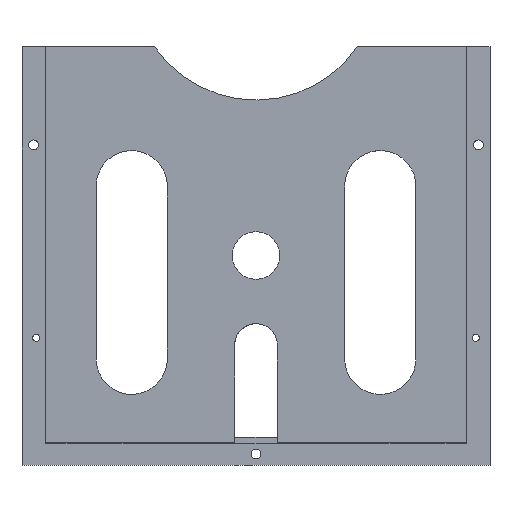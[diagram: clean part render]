
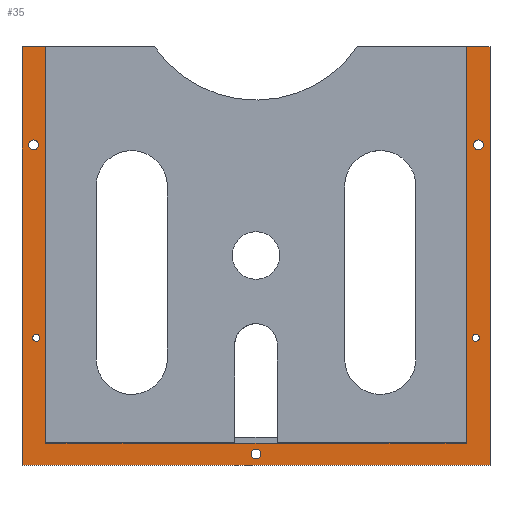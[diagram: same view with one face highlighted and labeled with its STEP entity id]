
A CAD part, top view. The second image highlights one B-rep face of the part: STEP entity #35.
In plain terms, the highlighted planar face has unit normal (0, 0, 1).
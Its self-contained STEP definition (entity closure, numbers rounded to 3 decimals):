
#14=FACE_BOUND('',#112,.T.);
#15=FACE_BOUND('',#113,.T.);
#16=FACE_BOUND('',#114,.T.);
#17=FACE_BOUND('',#115,.T.);
#18=FACE_BOUND('',#116,.T.);
#35=ADVANCED_FACE('',(#73,#14,#15,#16,#17,#18),#728,.T.);
#73=FACE_OUTER_BOUND('',#111,.T.);
#111=EDGE_LOOP('',(#180,#181,#182,#183,#184,#185,#186,#187,#188,#189,#190,
#191,#192,#193));
#112=EDGE_LOOP('',(#194));
#113=EDGE_LOOP('',(#195));
#114=EDGE_LOOP('',(#196));
#115=EDGE_LOOP('',(#197));
#116=EDGE_LOOP('',(#198));
#180=ORIENTED_EDGE('',*,*,#405,.F.);
#181=ORIENTED_EDGE('',*,*,#406,.F.);
#182=ORIENTED_EDGE('',*,*,#409,.F.);
#183=ORIENTED_EDGE('',*,*,#403,.T.);
#184=ORIENTED_EDGE('',*,*,#402,.T.);
#185=ORIENTED_EDGE('',*,*,#492,.F.);
#186=ORIENTED_EDGE('',*,*,#491,.T.);
#187=ORIENTED_EDGE('',*,*,#463,.F.);
#188=ORIENTED_EDGE('',*,*,#462,.T.);
#189=ORIENTED_EDGE('',*,*,#509,.T.);
#190=ORIENTED_EDGE('',*,*,#508,.T.);
#191=ORIENTED_EDGE('',*,*,#401,.T.);
#192=ORIENTED_EDGE('',*,*,#407,.F.);
#193=ORIENTED_EDGE('',*,*,#412,.F.);
#194=ORIENTED_EDGE('',*,*,#467,.T.);
#195=ORIENTED_EDGE('',*,*,#470,.T.);
#196=ORIENTED_EDGE('',*,*,#473,.T.);
#197=ORIENTED_EDGE('',*,*,#476,.T.);
#198=ORIENTED_EDGE('',*,*,#479,.T.);
#401=EDGE_CURVE('',#640,#646,#547,.T.);
#402=EDGE_CURVE('',#641,#693,#548,.T.);
#403=EDGE_CURVE('',#647,#641,#549,.T.);
#405=EDGE_CURVE('',#642,#643,#551,.T.);
#406=EDGE_CURVE('',#644,#642,#552,.T.);
#407=EDGE_CURVE('',#645,#646,#553,.T.);
#409=EDGE_CURVE('',#647,#644,#555,.T.);
#412=EDGE_CURVE('',#643,#645,#558,.T.);
#462=EDGE_CURVE('',#674,#702,#595,.T.);
#463=EDGE_CURVE('',#674,#675,#596,.T.);
#467=EDGE_CURVE('',#682,#682,#532,.T.);
#470=EDGE_CURVE('',#684,#684,#534,.T.);
#473=EDGE_CURVE('',#686,#686,#536,.T.);
#476=EDGE_CURVE('',#688,#688,#538,.T.);
#479=EDGE_CURVE('',#690,#690,#540,.T.);
#491=EDGE_CURVE('',#692,#675,#613,.T.);
#492=EDGE_CURVE('',#692,#693,#614,.T.);
#508=EDGE_CURVE('',#703,#640,#630,.T.);
#509=EDGE_CURVE('',#702,#703,#631,.T.);
#532=CIRCLE('',#879,2.75);
#534=CIRCLE('',#881,2.);
#536=CIRCLE('',#883,2.75);
#538=CIRCLE('',#885,2.);
#540=CIRCLE('',#887,2.75);
#547=B_SPLINE_CURVE_WITH_KNOTS('',1,(#1185,#1186),.UNSPECIFIED.,.F.,.F.,
(2,2),(-918.4,-695.8),.UNSPECIFIED.);
#548=B_SPLINE_CURVE_WITH_KNOTS('',1,(#1187,#1188),.UNSPECIFIED.,.F.,.F.,
(2,2),(-236.6,-219.9),.UNSPECIFIED.);
#549=B_SPLINE_CURVE_WITH_KNOTS('',1,(#1189,#1190),.UNSPECIFIED.,.F.,.F.,
(2,2),(-459.2,-236.6),.UNSPECIFIED.);
#551=B_SPLINE_CURVE_WITH_KNOTS('',3,(#1193,#1194,#1195,#1196),
 .UNSPECIFIED.,.F.,.F.,(4,4),(-263.,0.),.UNSPECIFIED.);
#552=B_SPLINE_CURVE_WITH_KNOTS('',3,(#1197,#1198,#1199,#1200),
 .UNSPECIFIED.,.F.,.F.,(4,4),(-235.,0.),.UNSPECIFIED.);
#553=B_SPLINE_CURVE_WITH_KNOTS('',3,(#1201,#1202,#1203,#1204),
 .UNSPECIFIED.,.F.,.F.,(4,4),(-263.,-249.8),.UNSPECIFIED.);
#555=B_SPLINE_CURVE_WITH_KNOTS('',3,(#1209,#1210,#1211,#1212),
 .UNSPECIFIED.,.F.,.F.,(4,4),(-13.2,0.),.UNSPECIFIED.);
#558=B_SPLINE_CURVE_WITH_KNOTS('',3,(#1219,#1220,#1221,#1222),
 .UNSPECIFIED.,.F.,.F.,(4,4),(-235.,0.),.UNSPECIFIED.);
#595=B_SPLINE_CURVE_WITH_KNOTS('',1,(#1496,#1497),.UNSPECIFIED.,.F.,.F.,
(2,2),(-106.3,-41.3),.UNSPECIFIED.);
#596=B_SPLINE_CURVE_WITH_KNOTS('',1,(#1498,#1499),.UNSPECIFIED.,.F.,.F.,
(2,2),(106.3,130.3),.UNSPECIFIED.);
#613=B_SPLINE_CURVE_WITH_KNOTS('',1,(#1563,#1564),.UNSPECIFIED.,.F.,.F.,
(2,2),(-195.3,-130.3),.UNSPECIFIED.);
#614=B_SPLINE_CURVE_WITH_KNOTS('',1,(#1565,#1566),.UNSPECIFIED.,.F.,.F.,
(2,2),(195.3,219.9),.UNSPECIFIED.);
#630=B_SPLINE_CURVE_WITH_KNOTS('',1,(#1613,#1614),.UNSPECIFIED.,.F.,.F.,
(2,2),(-16.7,0.),.UNSPECIFIED.);
#631=B_SPLINE_CURVE_WITH_KNOTS('',1,(#1615,#1616),.UNSPECIFIED.,.F.,.F.,
(2,2),(-41.3,-16.7),.UNSPECIFIED.);
#640=VERTEX_POINT('',#1103);
#641=VERTEX_POINT('',#1104);
#642=VERTEX_POINT('',#1105);
#643=VERTEX_POINT('',#1106);
#644=VERTEX_POINT('',#1107);
#645=VERTEX_POINT('',#1108);
#646=VERTEX_POINT('',#1109);
#647=VERTEX_POINT('',#1110);
#674=VERTEX_POINT('',#1137);
#675=VERTEX_POINT('',#1138);
#682=VERTEX_POINT('',#1145);
#684=VERTEX_POINT('',#1147);
#686=VERTEX_POINT('',#1149);
#688=VERTEX_POINT('',#1151);
#690=VERTEX_POINT('',#1153);
#692=VERTEX_POINT('',#1155);
#693=VERTEX_POINT('',#1156);
#702=VERTEX_POINT('',#1165);
#703=VERTEX_POINT('',#1166);
#728=PLANE('',#843);
#843=AXIS2_PLACEMENT_3D('',#967,#897,$);
#879=AXIS2_PLACEMENT_3D($,#1509,#939,#940);
#881=AXIS2_PLACEMENT_3D($,#1513,#943,#944);
#883=AXIS2_PLACEMENT_3D($,#1517,#947,#948);
#885=AXIS2_PLACEMENT_3D($,#1521,#951,#952);
#887=AXIS2_PLACEMENT_3D($,#1525,#955,#956);
#897=DIRECTION('',(0.,0.,1.));
#939=DIRECTION('',(0.,0.,-1.));
#940=DIRECTION('',(1.,0.,0.));
#943=DIRECTION('',(0.,0.,-1.));
#944=DIRECTION('',(1.,0.,0.));
#947=DIRECTION('',(0.,0.,-1.));
#948=DIRECTION('',(1.,0.,0.));
#951=DIRECTION('',(0.,0.,-1.));
#952=DIRECTION('',(-1.,0.,0.));
#955=DIRECTION('',(0.,0.,-1.));
#956=DIRECTION('',(1.,0.,0.));
#967=CARTESIAN_POINT('',(-691.,-10.,2.6));
#1103=CARTESIAN_POINT('',(-667.8,12.4,2.6));
#1104=CARTESIAN_POINT('',(-431.2,12.4,2.6));
#1105=CARTESIAN_POINT('',(-418.,0.,2.6));
#1106=CARTESIAN_POINT('',(-681.,0.,2.6));
#1107=CARTESIAN_POINT('',(-418.,235.,2.6));
#1108=CARTESIAN_POINT('',(-681.,235.,2.6));
#1109=CARTESIAN_POINT('',(-667.8,235.,2.6));
#1110=CARTESIAN_POINT('',(-431.2,235.,2.6));
#1137=CARTESIAN_POINT('',(-561.5,12.4,2.6));
#1138=CARTESIAN_POINT('',(-537.5,12.4,2.6));
#1145=CARTESIAN_POINT('',(-421.75,180.,2.6));
#1147=CARTESIAN_POINT('',(-424.,71.55,2.6));
#1149=CARTESIAN_POINT('',(-546.75,6.2,2.6));
#1151=CARTESIAN_POINT('',(-675.,71.55,2.6));
#1153=CARTESIAN_POINT('',(-671.75,180.,2.6));
#1155=CARTESIAN_POINT('',(-472.5,12.4,2.6));
#1156=CARTESIAN_POINT('',(-447.9,12.4,2.6));
#1165=CARTESIAN_POINT('',(-626.5,12.4,2.6));
#1166=CARTESIAN_POINT('',(-651.1,12.4,2.6));
#1185=CARTESIAN_POINT('',(-667.8,12.4,2.6));
#1186=CARTESIAN_POINT('',(-667.8,235.,2.6));
#1187=CARTESIAN_POINT('',(-431.2,12.4,2.6));
#1188=CARTESIAN_POINT('',(-447.9,12.4,2.6));
#1189=CARTESIAN_POINT('',(-431.2,235.,2.6));
#1190=CARTESIAN_POINT('',(-431.2,12.4,2.6));
#1193=CARTESIAN_POINT('',(-418.,0.,2.6));
#1194=CARTESIAN_POINT('',(-505.667,0.,2.6));
#1195=CARTESIAN_POINT('',(-593.333,0.,2.6));
#1196=CARTESIAN_POINT('',(-681.,0.,2.6));
#1197=CARTESIAN_POINT('',(-418.,235.,2.6));
#1198=CARTESIAN_POINT('',(-418.,156.667,2.6));
#1199=CARTESIAN_POINT('',(-418.,78.333,2.6));
#1200=CARTESIAN_POINT('',(-418.,0.,2.6));
#1201=CARTESIAN_POINT('',(-681.,235.,2.6));
#1202=CARTESIAN_POINT('',(-676.6,235.,2.6));
#1203=CARTESIAN_POINT('',(-672.2,235.,2.6));
#1204=CARTESIAN_POINT('',(-667.8,235.,2.6));
#1209=CARTESIAN_POINT('',(-431.2,235.,2.6));
#1210=CARTESIAN_POINT('',(-426.8,235.,2.6));
#1211=CARTESIAN_POINT('',(-422.4,235.,2.6));
#1212=CARTESIAN_POINT('',(-418.,235.,2.6));
#1219=CARTESIAN_POINT('',(-681.,0.,2.6));
#1220=CARTESIAN_POINT('',(-681.,78.333,2.6));
#1221=CARTESIAN_POINT('',(-681.,156.667,2.6));
#1222=CARTESIAN_POINT('',(-681.,235.,2.6));
#1496=CARTESIAN_POINT('',(-561.5,12.4,2.6));
#1497=CARTESIAN_POINT('',(-626.5,12.4,2.6));
#1498=CARTESIAN_POINT('',(-561.5,12.4,2.6));
#1499=CARTESIAN_POINT('',(-537.5,12.4,2.6));
#1509=CARTESIAN_POINT('',(-424.5,180.,2.6));
#1513=CARTESIAN_POINT('',(-426.,71.55,2.6));
#1517=CARTESIAN_POINT('',(-549.5,6.2,2.6));
#1521=CARTESIAN_POINT('',(-673.,71.55,2.6));
#1525=CARTESIAN_POINT('',(-674.5,180.,2.6));
#1563=CARTESIAN_POINT('',(-472.5,12.4,2.6));
#1564=CARTESIAN_POINT('',(-537.5,12.4,2.6));
#1565=CARTESIAN_POINT('',(-472.5,12.4,2.6));
#1566=CARTESIAN_POINT('',(-447.9,12.4,2.6));
#1613=CARTESIAN_POINT('',(-651.1,12.4,2.6));
#1614=CARTESIAN_POINT('',(-667.8,12.4,2.6));
#1615=CARTESIAN_POINT('',(-626.5,12.4,2.6));
#1616=CARTESIAN_POINT('',(-651.1,12.4,2.6));
